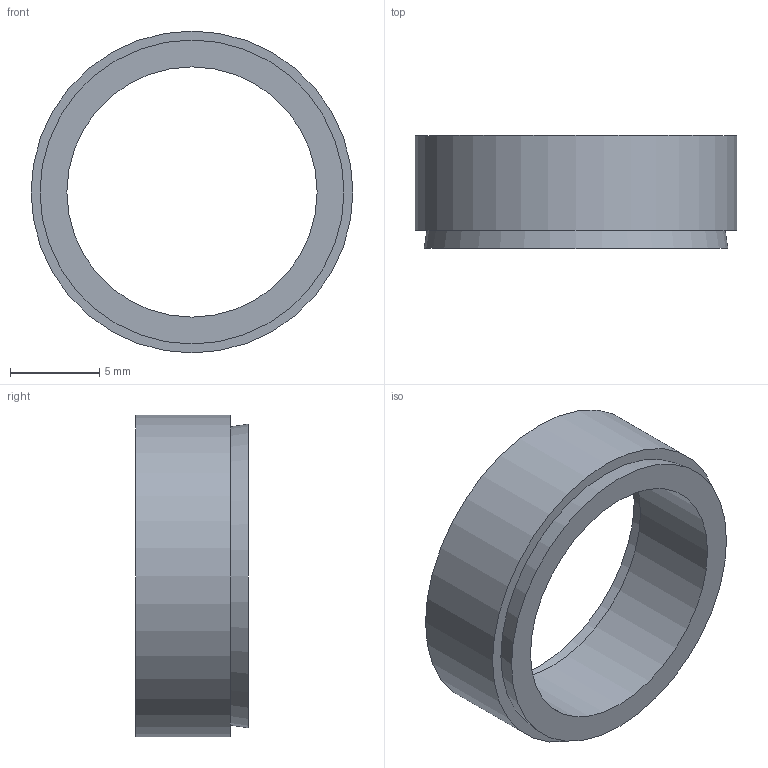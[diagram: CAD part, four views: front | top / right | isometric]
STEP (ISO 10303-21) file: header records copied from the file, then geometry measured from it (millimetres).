
FILE_DESCRIPTION( ( 'Unknown' ), '1' );
FILE_NAME( 'C:/Dokumente und Einstellungen/Sven/Desktop/homepage/cad - homepage/KBS50/KBS 50 - 14 x 18.stp', 'Unknown', ( 'Unknown' ), ( 'Unknown' ), 'XStep 1.0', 'Unknown', ' ' );
FILE_SCHEMA( ( 'automotive_design' ) );
Length unit declared in the file: millimetre
Products named in the file (1): 1
Bounding box: 18 x 6.3 x 18 mm (x, y, z)
Volume: 575.1 mm3; surface area: 851.6 mm2
Topology: 1 solids, 1 shells, 8 faces, 12 edges, 8 vertices
Faces by surface type: plane 4, cylinder 2, cone 2
Full cylindrical faces by diameter (mm): 14 x1, 18 x1
Entity records: 248 total; most frequent: DIRECTION 34, CARTESIAN_POINT 25, AXIS2_PLACEMENT_3D 17, EDGE_LOOP 16, ORIENTED_EDGE 16, FACE_OUTER_BOUND 10, STYLED_ITEM 8, PRESENTATION_STYLE_ASSIGNMENT 8
